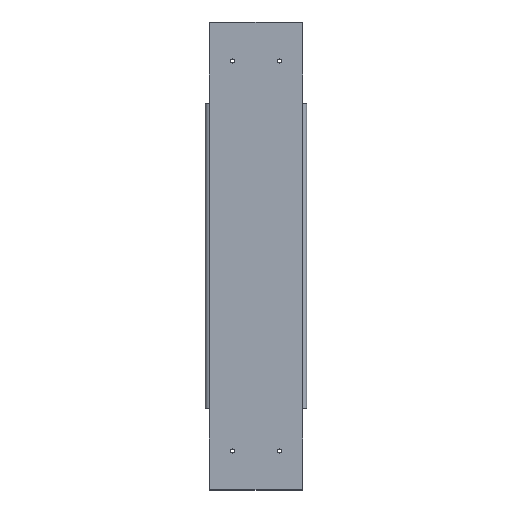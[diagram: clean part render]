
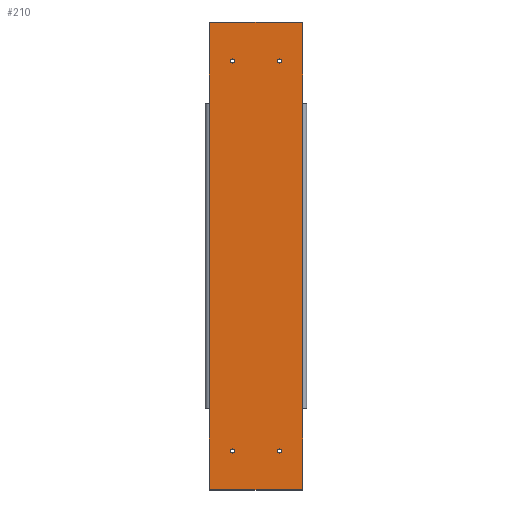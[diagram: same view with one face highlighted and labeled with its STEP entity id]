
A CAD part, top view. The second image highlights one B-rep face of the part: STEP entity #210.
In plain terms, the highlighted planar face has unit normal (0, 0, 1).
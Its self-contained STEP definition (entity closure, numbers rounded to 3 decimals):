
#59=CARTESIAN_POINT('',(1580.,4693.5,147.5));
#60=DIRECTION('',(-0.,-0.,1.));
#61=DIRECTION('',(0.,1.,0.));
#62=AXIS2_PLACEMENT_3D('',#59,#60,#61);
#63=PLANE('',#62);
#64=CARTESIAN_POINT('',(1530.,4730.9,147.5));
#65=VERTEX_POINT('',#64);
#66=CARTESIAN_POINT('',(1530.,4733.5,147.5));
#67=DIRECTION('',(-0.,-0.,1.));
#68=DIRECTION('',(0.,-1.,-0.));
#69=AXIS2_PLACEMENT_3D('',#66,#67,#68);
#70=CIRCLE('',#69,2.6);
#71=EDGE_CURVE('',#65,#65,#70,.T.);
#72=ORIENTED_EDGE('',*,*,#71,.F.);
#73=EDGE_LOOP('',(#72));
#74=FACE_BOUND('',#73,.T.);
#75=CARTESIAN_POINT('',(1590.,4730.9,147.5));
#76=VERTEX_POINT('',#75);
#77=CARTESIAN_POINT('',(1590.,4733.5,147.5));
#78=DIRECTION('',(-0.,-0.,1.));
#79=DIRECTION('',(0.,-1.,-0.));
#80=AXIS2_PLACEMENT_3D('',#77,#78,#79);
#81=CIRCLE('',#80,2.6);
#82=EDGE_CURVE('',#76,#76,#81,.T.);
#83=ORIENTED_EDGE('',*,*,#82,.F.);
#84=EDGE_LOOP('',(#83));
#85=FACE_BOUND('',#84,.T.);
#86=CARTESIAN_POINT('',(1530.,5230.9,147.5));
#87=VERTEX_POINT('',#86);
#88=CARTESIAN_POINT('',(1530.,5233.5,147.5));
#89=DIRECTION('',(-0.,-0.,1.));
#90=DIRECTION('',(0.,-1.,-0.));
#91=AXIS2_PLACEMENT_3D('',#88,#89,#90);
#92=CIRCLE('',#91,2.6);
#93=EDGE_CURVE('',#87,#87,#92,.T.);
#94=ORIENTED_EDGE('',*,*,#93,.F.);
#95=EDGE_LOOP('',(#94));
#96=FACE_BOUND('',#95,.T.);
#97=CARTESIAN_POINT('',(1590.,5230.9,147.5));
#98=VERTEX_POINT('',#97);
#99=CARTESIAN_POINT('',(1590.,5233.5,147.5));
#100=DIRECTION('',(-0.,-0.,1.));
#101=DIRECTION('',(0.,-1.,-0.));
#102=AXIS2_PLACEMENT_3D('',#99,#100,#101);
#103=CIRCLE('',#102,2.6);
#104=EDGE_CURVE('',#98,#98,#103,.T.);
#105=ORIENTED_EDGE('',*,*,#104,.F.);
#106=EDGE_LOOP('',(#105));
#107=FACE_BOUND('',#106,.T.);
#108=CARTESIAN_POINT('',(1620.,4787.5,147.5));
#109=VERTEX_POINT('',#108);
#110=CARTESIAN_POINT('',(1620.,4684.5,147.5));
#111=VERTEX_POINT('',#110);
#112=CARTESIAN_POINT('',(1620.,4787.5,147.5));
#113=DIRECTION('',(0.,-1.,-0.));
#114=VECTOR('',#113,103.);
#115=LINE('',#112,#114);
#116=EDGE_CURVE('',#109,#111,#115,.T.);
#117=ORIENTED_EDGE('',*,*,#116,.F.);
#118=CARTESIAN_POINT('',(1620.,5179.5,147.5));
#119=VERTEX_POINT('',#118);
#120=CARTESIAN_POINT('',(1620.,4787.5,147.5));
#121=DIRECTION('',(0.,1.,0.));
#122=VECTOR('',#121,392.);
#123=LINE('',#120,#122);
#124=EDGE_CURVE('',#109,#119,#123,.T.);
#125=ORIENTED_EDGE('',*,*,#124,.T.);
#126=CARTESIAN_POINT('',(1620.,5282.5,147.5));
#127=VERTEX_POINT('',#126);
#128=CARTESIAN_POINT('',(1620.,5179.5,147.5));
#129=DIRECTION('',(0.,1.,0.));
#130=VECTOR('',#129,103.);
#131=LINE('',#128,#130);
#132=EDGE_CURVE('',#119,#127,#131,.T.);
#133=ORIENTED_EDGE('',*,*,#132,.T.);
#134=CARTESIAN_POINT('',(1619.,5283.5,147.5));
#135=VERTEX_POINT('',#134);
#136=CARTESIAN_POINT('',(1619.,5282.5,147.5));
#137=DIRECTION('',(-0.,-0.,1.));
#138=DIRECTION('',(0.,-1.,-0.));
#139=AXIS2_PLACEMENT_3D('',#136,#137,#138);
#140=CIRCLE('',#139,1.);
#141=EDGE_CURVE('',#127,#135,#140,.T.);
#142=ORIENTED_EDGE('',*,*,#141,.T.);
#143=CARTESIAN_POINT('',(1501.,5283.5,147.5));
#144=VERTEX_POINT('',#143);
#145=CARTESIAN_POINT('',(1619.,5283.5,147.5));
#146=DIRECTION('',(-1.,0.,0.));
#147=VECTOR('',#146,118.);
#148=LINE('',#145,#147);
#149=EDGE_CURVE('',#135,#144,#148,.T.);
#150=ORIENTED_EDGE('',*,*,#149,.T.);
#151=CARTESIAN_POINT('',(1500.,5282.5,147.5));
#152=VERTEX_POINT('',#151);
#153=CARTESIAN_POINT('',(1501.,5282.5,147.5));
#154=DIRECTION('',(-0.,-0.,1.));
#155=DIRECTION('',(0.,-1.,-0.));
#156=AXIS2_PLACEMENT_3D('',#153,#154,#155);
#157=CIRCLE('',#156,1.);
#158=EDGE_CURVE('',#144,#152,#157,.T.);
#159=ORIENTED_EDGE('',*,*,#158,.T.);
#160=CARTESIAN_POINT('',(1500.,5179.5,147.5));
#161=VERTEX_POINT('',#160);
#162=CARTESIAN_POINT('',(1500.,5179.5,147.5));
#163=DIRECTION('',(0.,1.,0.));
#164=VECTOR('',#163,103.);
#165=LINE('',#162,#164);
#166=EDGE_CURVE('',#161,#152,#165,.T.);
#167=ORIENTED_EDGE('',*,*,#166,.F.);
#168=CARTESIAN_POINT('',(1500.,4787.5,147.5));
#169=VERTEX_POINT('',#168);
#170=CARTESIAN_POINT('',(1500.,5179.5,147.5));
#171=DIRECTION('',(-0.,-1.,-0.));
#172=VECTOR('',#171,392.);
#173=LINE('',#170,#172);
#174=EDGE_CURVE('',#161,#169,#173,.T.);
#175=ORIENTED_EDGE('',*,*,#174,.T.);
#176=CARTESIAN_POINT('',(1500.,4684.5,147.5));
#177=VERTEX_POINT('',#176);
#178=CARTESIAN_POINT('',(1500.,4787.5,147.5));
#179=DIRECTION('',(0.,-1.,-0.));
#180=VECTOR('',#179,103.);
#181=LINE('',#178,#180);
#182=EDGE_CURVE('',#169,#177,#181,.T.);
#183=ORIENTED_EDGE('',*,*,#182,.T.);
#184=CARTESIAN_POINT('',(1501.,4683.5,147.5));
#185=VERTEX_POINT('',#184);
#186=CARTESIAN_POINT('',(1501.,4684.5,147.5));
#187=DIRECTION('',(-0.,-0.,1.));
#188=DIRECTION('',(0.,-1.,-0.));
#189=AXIS2_PLACEMENT_3D('',#186,#187,#188);
#190=CIRCLE('',#189,1.);
#191=EDGE_CURVE('',#177,#185,#190,.T.);
#192=ORIENTED_EDGE('',*,*,#191,.T.);
#193=CARTESIAN_POINT('',(1619.,4683.5,147.5));
#194=VERTEX_POINT('',#193);
#195=CARTESIAN_POINT('',(1619.,4683.5,147.5));
#196=DIRECTION('',(-1.,0.,0.));
#197=VECTOR('',#196,118.);
#198=LINE('',#195,#197);
#199=EDGE_CURVE('',#194,#185,#198,.T.);
#200=ORIENTED_EDGE('',*,*,#199,.F.);
#201=CARTESIAN_POINT('',(1619.,4684.5,147.5));
#202=DIRECTION('',(-0.,-0.,1.));
#203=DIRECTION('',(0.,-1.,-0.));
#204=AXIS2_PLACEMENT_3D('',#201,#202,#203);
#205=CIRCLE('',#204,1.);
#206=EDGE_CURVE('',#194,#111,#205,.T.);
#207=ORIENTED_EDGE('',*,*,#206,.T.);
#208=EDGE_LOOP('',(#117,#125,#133,#142,#150,#159,#167,#175,#183,#192,#200,#207));
#209=FACE_BOUND('',#208,.T.);
#210=ADVANCED_FACE('',(#74,#85,#96,#107,#209),#63,.T.);
